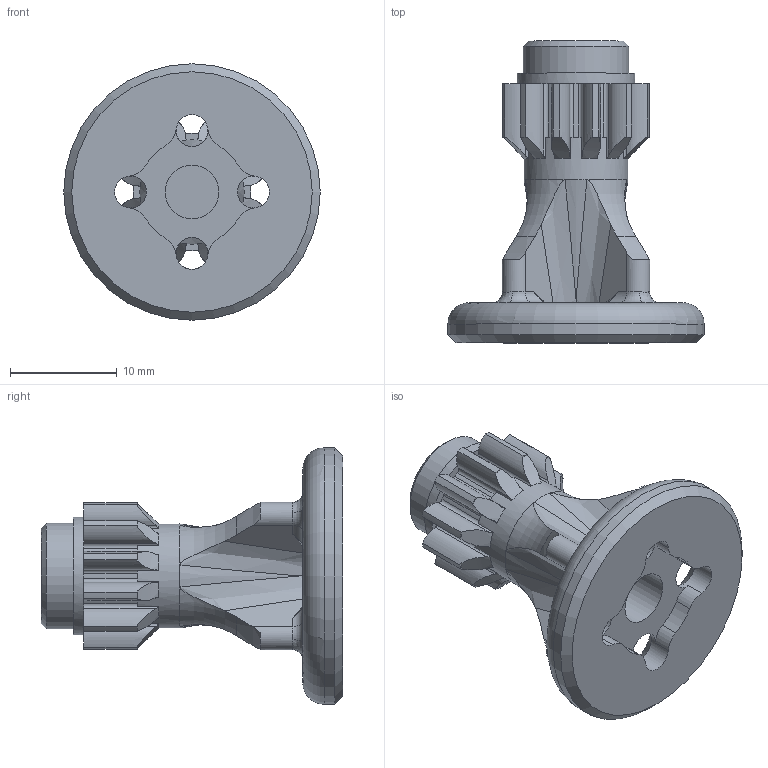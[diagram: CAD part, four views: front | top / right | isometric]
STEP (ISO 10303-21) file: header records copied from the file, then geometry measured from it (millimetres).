
FILE_DESCRIPTION( ( '' ), ' ' );
FILE_NAME( '/vol/tmp/translate-1919448035940651358/5b317fcb3f476d1102fc8106.step', '2018-06-25T23:50:36', ( '' ), ( '' ), ' ', ' ', ' ' );
FILE_SCHEMA( ( 'AUTOMOTIVE_DESIGN { 1 0 10303 214 1 1 1 1 }' ) );
Length unit declared in the file: metre
Products named in the file (1): Part 1
Bounding box: 24 x 28.25 x 24 mm (x, y, z)
Volume: 3403.4 mm3; surface area: 2515.9 mm2
Topology: 1 solids, 1 shells, 225 faces, 629 edges, 401 vertices
Faces by surface type: cylinder 81, plane 69, cone 26, extrusion 24, torus 13, bspline 12
Full cylindrical faces by diameter (mm): 3 x4, 5 x1, 9.75 x1, 9.9 x1, 11 x1, 24 x1
Entity records: 11796 total; most frequent: CARTESIAN_POINT 4560, ORIENTED_EDGE 1202, DIRECTION 1062, EDGE_CURVE 601, AXIS2_PLACEMENT_3D 451, VERTEX_POINT 389, CIRCLE 261, EDGE_LOOP 244
